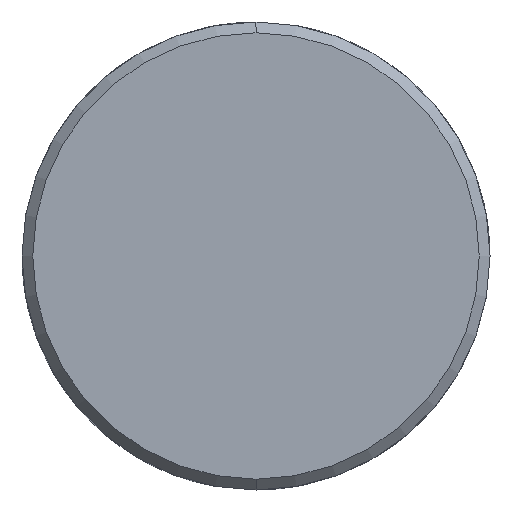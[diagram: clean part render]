
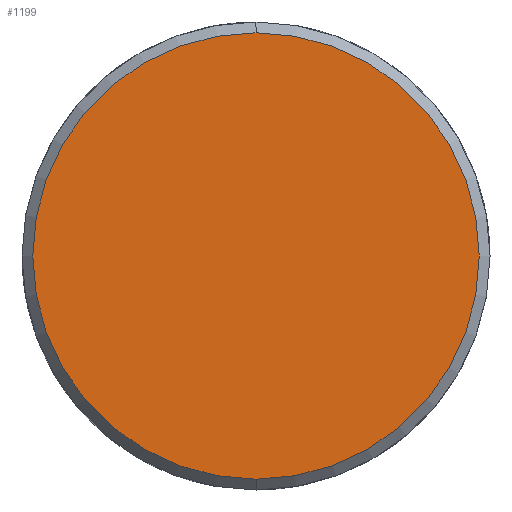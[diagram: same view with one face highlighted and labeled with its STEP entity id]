
A CAD part, left-side view. The second image highlights one B-rep face of the part: STEP entity #1199.
In plain terms, the highlighted planar face has unit normal (-1, 0, 0).
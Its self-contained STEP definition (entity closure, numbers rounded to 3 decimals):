
#1131=CARTESIAN_POINT('Vertex',(-10.,0.,-31.)) ;
#1134=CARTESIAN_POINT('Axis2P3D Location',(-10.,0.,0.)) ;
#1138=CARTESIAN_POINT('Vertex',(-10.,31.,0.)) ;
#1141=CARTESIAN_POINT('Axis2P3D Location',(-10.,0.,0.)) ;
#1145=CARTESIAN_POINT('Vertex',(-10.,0.,31.)) ;
#1167=CARTESIAN_POINT('Axis2P3D Location',(-10.,0.,0.)) ;
#1171=CARTESIAN_POINT('Vertex',(-10.,-31.,0.)) ;
#1174=CARTESIAN_POINT('Axis2P3D Location',(-10.,0.,0.)) ;
#1188=CARTESIAN_POINT('Axis2P3D Location',(-10.,0.,0.)) ;
#1135=DIRECTION('Axis2P3D Direction',(1.,0.,-0.)) ;
#1142=DIRECTION('Axis2P3D Direction',(1.,0.,-0.)) ;
#1168=DIRECTION('Axis2P3D Direction',(1.,0.,-0.)) ;
#1175=DIRECTION('Axis2P3D Direction',(1.,0.,-0.)) ;
#1189=DIRECTION('Axis2P3D Direction',(1.,0.,-0.)) ;
#1190=DIRECTION('Axis2P3D XDirection',(-0.,0.,-1.)) ;
#1136=AXIS2_PLACEMENT_3D('Circle Axis2P3D',#1134,#1135,$) ;
#1143=AXIS2_PLACEMENT_3D('Circle Axis2P3D',#1141,#1142,$) ;
#1169=AXIS2_PLACEMENT_3D('Circle Axis2P3D',#1167,#1168,$) ;
#1176=AXIS2_PLACEMENT_3D('Circle Axis2P3D',#1174,#1175,$) ;
#1191=AXIS2_PLACEMENT_3D('Plane Axis2P3D',#1188,#1189,#1190) ;
#1194=ORIENTED_EDGE('',*,*,#1140,.F.) ;
#1195=ORIENTED_EDGE('',*,*,#1178,.F.) ;
#1196=ORIENTED_EDGE('',*,*,#1173,.F.) ;
#1197=ORIENTED_EDGE('',*,*,#1147,.F.) ;
#1199=ADVANCED_FACE('351-50X126X220',(#1198),#1192,.F.) ;
#1137=CIRCLE('generated circle',#1136,31.) ;
#1144=CIRCLE('generated circle',#1143,31.) ;
#1170=CIRCLE('generated circle',#1169,31.) ;
#1177=CIRCLE('generated circle',#1176,31.) ;
#1140=EDGE_CURVE('',#1132,#1139,#1137,.T.) ;
#1147=EDGE_CURVE('',#1139,#1146,#1144,.T.) ;
#1173=EDGE_CURVE('',#1146,#1172,#1170,.T.) ;
#1178=EDGE_CURVE('',#1172,#1132,#1177,.T.) ;
#1193=EDGE_LOOP('',(#1194,#1195,#1196,#1197)) ;
#1198=FACE_OUTER_BOUND('',#1193,.T.) ;
#1192=PLANE('Plane',#1191) ;
#1132=VERTEX_POINT('',#1131) ;
#1139=VERTEX_POINT('',#1138) ;
#1146=VERTEX_POINT('',#1145) ;
#1172=VERTEX_POINT('',#1171) ;
